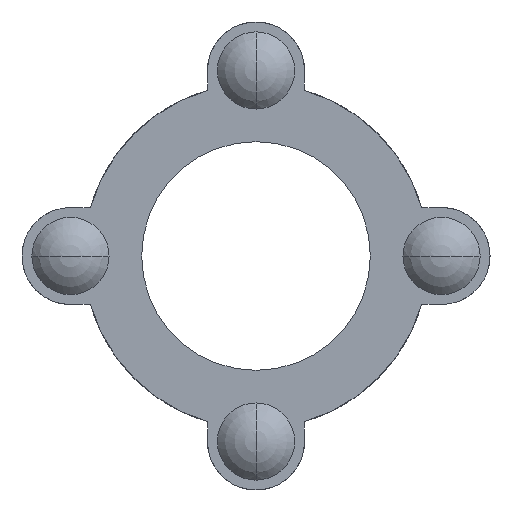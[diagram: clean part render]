
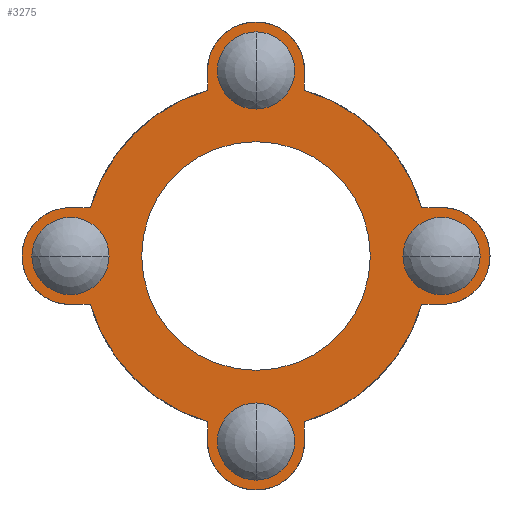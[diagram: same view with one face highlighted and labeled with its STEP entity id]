
A CAD part, left-side view. The second image highlights one B-rep face of the part: STEP entity #3275.
In plain terms, the highlighted planar face has unit normal (-1, 0, 0).
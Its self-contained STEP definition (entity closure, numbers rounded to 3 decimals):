
#2=CARTESIAN_POINT('',(-76.5,0.,-61.25));
#3=DIRECTION('',(1.,0.,0.));
#4=DIRECTION('',(0.,0.,-1.));
#5=AXIS2_PLACEMENT_3D('',#2,#3,#4);
#7=CARTESIAN_POINT('',(-76.5,0.,-61.25));
#8=DIRECTION('',(1.,0.,0.));
#9=DIRECTION('',(0.,0.,1.));
#10=AXIS2_PLACEMENT_3D('',#7,#8,#9);
#12=CARTESIAN_POINT('',(-76.5,0.,61.25));
#13=DIRECTION('',(1.,0.,0.));
#14=DIRECTION('',(0.,0.,1.));
#15=AXIS2_PLACEMENT_3D('',#12,#13,#14);
#17=CARTESIAN_POINT('',(-76.5,0.,61.25));
#18=DIRECTION('',(1.,0.,0.));
#19=DIRECTION('',(0.,0.,-1.));
#20=AXIS2_PLACEMENT_3D('',#17,#18,#19);
#22=CARTESIAN_POINT('',(-76.5,61.25,0.));
#23=DIRECTION('',(1.,0.,0.));
#24=DIRECTION('',(0.,1.,0.));
#25=AXIS2_PLACEMENT_3D('',#22,#23,#24);
#27=CARTESIAN_POINT('',(-76.5,61.25,0.));
#28=DIRECTION('',(1.,0.,0.));
#29=DIRECTION('',(0.,-1.,0.));
#30=AXIS2_PLACEMENT_3D('',#27,#28,#29);
#32=DIRECTION('',(0.,0.,1.));
#33=VECTOR('',#32,6.542);
#34=CARTESIAN_POINT('',(-76.5,-16.,-61.25));
#35=LINE('',#34,#33);
#36=CARTESIAN_POINT('',(-76.5,0.,-61.25));
#37=DIRECTION('',(-1.,0.,0.));
#38=DIRECTION('',(0.,1.,0.));
#39=AXIS2_PLACEMENT_3D('',#36,#37,#38);
#41=DIRECTION('',(0.,0.,-1.));
#42=VECTOR('',#41,6.542);
#43=CARTESIAN_POINT('',(-76.5,16.,-54.708));
#44=LINE('',#43,#42);
#45=DIRECTION('',(0.,-1.,0.));
#46=VECTOR('',#45,6.542);
#47=CARTESIAN_POINT('',(-76.5,61.25,-16.));
#48=LINE('',#47,#46);
#49=CARTESIAN_POINT('',(-76.5,61.25,0.));
#50=DIRECTION('',(-1.,0.,0.));
#51=DIRECTION('',(0.,0.,1.));
#52=AXIS2_PLACEMENT_3D('',#49,#50,#51);
#54=DIRECTION('',(0.,1.,0.));
#55=VECTOR('',#54,6.542);
#56=CARTESIAN_POINT('',(-76.5,54.708,16.));
#57=LINE('',#56,#55);
#58=DIRECTION('',(0.,0.,-1.));
#59=VECTOR('',#58,6.542);
#60=CARTESIAN_POINT('',(-76.5,16.,61.25));
#61=LINE('',#60,#59);
#62=CARTESIAN_POINT('',(-76.5,0.,61.25));
#63=DIRECTION('',(-1.,0.,0.));
#64=DIRECTION('',(0.,-1.,0.));
#65=AXIS2_PLACEMENT_3D('',#62,#63,#64);
#67=DIRECTION('',(0.,0.,1.));
#68=VECTOR('',#67,6.542);
#69=CARTESIAN_POINT('',(-76.5,-16.,54.708));
#70=LINE('',#69,#68);
#71=DIRECTION('',(0.,1.,0.));
#72=VECTOR('',#71,6.542);
#73=CARTESIAN_POINT('',(-76.5,-61.25,16.));
#74=LINE('',#73,#72);
#75=CARTESIAN_POINT('',(-76.5,-61.25,0.));
#76=DIRECTION('',(-1.,0.,0.));
#77=DIRECTION('',(0.,0.,-1.));
#78=AXIS2_PLACEMENT_3D('',#75,#76,#77);
#80=DIRECTION('',(0.,-1.,0.));
#81=VECTOR('',#80,6.542);
#82=CARTESIAN_POINT('',(-76.5,-54.708,-16.));
#83=LINE('',#82,#81);
#84=CARTESIAN_POINT('',(-76.5,-61.25,0.));
#85=DIRECTION('',(1.,0.,0.));
#86=DIRECTION('',(0.,-1.,0.));
#87=AXIS2_PLACEMENT_3D('',#84,#85,#86);
#89=CARTESIAN_POINT('',(-76.5,-61.25,0.));
#90=DIRECTION('',(1.,0.,0.));
#91=DIRECTION('',(0.,1.,0.));
#92=AXIS2_PLACEMENT_3D('',#89,#90,#91);
#209=CARTESIAN_POINT('',(-76.5,0.,0.));
#210=DIRECTION('',(-1.,0.,0.));
#211=DIRECTION('',(0.,-0.96,0.281));
#212=AXIS2_PLACEMENT_3D('',#209,#210,#211);
#218=CARTESIAN_POINT('',(-76.5,0.,0.));
#219=DIRECTION('',(-1.,0.,0.));
#220=DIRECTION('',(0.,-0.281,-0.96));
#221=AXIS2_PLACEMENT_3D('',#218,#219,#220);
#254=CARTESIAN_POINT('',(-76.5,0.,0.));
#255=DIRECTION('',(-1.,0.,0.));
#256=DIRECTION('',(0.,0.96,-0.281));
#257=AXIS2_PLACEMENT_3D('',#254,#255,#256);
#317=CARTESIAN_POINT('',(-76.5,0.,0.));
#318=DIRECTION('',(-1.,0.,0.));
#319=DIRECTION('',(0.,0.281,0.96));
#320=AXIS2_PLACEMENT_3D('',#317,#318,#319);
#2384=CARTESIAN_POINT('',(-76.5,0.,0.));
#2385=DIRECTION('',(-1.,0.,0.));
#2386=DIRECTION('',(0.,1.,0.));
#2387=AXIS2_PLACEMENT_3D('',#2384,#2385,#2386);
#2389=CARTESIAN_POINT('',(-76.5,0.,0.));
#2390=DIRECTION('',(1.,0.,0.));
#2391=DIRECTION('',(0.,1.,0.));
#2392=AXIS2_PLACEMENT_3D('',#2389,#2390,#2391);
#2584=CARTESIAN_POINT('',(-76.5,37.75,0.));
#2586=VERTEX_POINT('',#2584);
#2596=CARTESIAN_POINT('',(-76.5,-37.75,0.));
#2598=VERTEX_POINT('',#2596);
#2612=CARTESIAN_POINT('',(-76.5,61.25,16.));
#2613=CARTESIAN_POINT('',(-76.5,61.25,-16.));
#2614=VERTEX_POINT('',#2612);
#2615=VERTEX_POINT('',#2613);
#2616=CARTESIAN_POINT('',(-76.5,54.708,-16.));
#2617=VERTEX_POINT('',#2616);
#2618=CARTESIAN_POINT('',(-76.5,54.708,16.));
#2619=VERTEX_POINT('',#2618);
#2696=CARTESIAN_POINT('',(-76.5,74.,0.));
#2697=CARTESIAN_POINT('',(-76.5,48.5,0.));
#2698=VERTEX_POINT('',#2696);
#2699=VERTEX_POINT('',#2697);
#2776=CARTESIAN_POINT('',(-76.5,-16.,61.25));
#2777=CARTESIAN_POINT('',(-76.5,16.,61.25));
#2778=VERTEX_POINT('',#2776);
#2779=VERTEX_POINT('',#2777);
#2780=CARTESIAN_POINT('',(-76.5,16.,54.708));
#2781=VERTEX_POINT('',#2780);
#2782=CARTESIAN_POINT('',(-76.5,-16.,54.708));
#2783=VERTEX_POINT('',#2782);
#2816=CARTESIAN_POINT('',(-76.5,-61.25,-16.));
#2817=CARTESIAN_POINT('',(-76.5,-61.25,16.));
#2818=VERTEX_POINT('',#2816);
#2819=VERTEX_POINT('',#2817);
#2820=CARTESIAN_POINT('',(-76.5,-54.708,16.));
#2821=VERTEX_POINT('',#2820);
#2822=CARTESIAN_POINT('',(-76.5,-54.708,-16.));
#2823=VERTEX_POINT('',#2822);
#2856=CARTESIAN_POINT('',(-76.5,16.,-61.25));
#2857=CARTESIAN_POINT('',(-76.5,-16.,-61.25));
#2858=VERTEX_POINT('',#2856);
#2859=VERTEX_POINT('',#2857);
#2860=CARTESIAN_POINT('',(-76.5,-16.,-54.708));
#2861=VERTEX_POINT('',#2860);
#2862=CARTESIAN_POINT('',(-76.5,16.,-54.708));
#2863=VERTEX_POINT('',#2862);
#3093=CARTESIAN_POINT('',(-76.5,0.,74.));
#3094=VERTEX_POINT('',#3093);
#3095=CARTESIAN_POINT('',(-76.5,0.,48.5));
#3096=VERTEX_POINT('',#3095);
#3109=CARTESIAN_POINT('',(-76.5,-74.,0.));
#3110=VERTEX_POINT('',#3109);
#3111=CARTESIAN_POINT('',(-76.5,-48.5,0.));
#3112=VERTEX_POINT('',#3111);
#3125=CARTESIAN_POINT('',(-76.5,0.,-74.));
#3126=VERTEX_POINT('',#3125);
#3127=CARTESIAN_POINT('',(-76.5,0.,-48.5));
#3128=VERTEX_POINT('',#3127);
#3207=CARTESIAN_POINT('',(-76.5,0.,0.));
#3208=DIRECTION('',(1.,0.,0.));
#3209=DIRECTION('',(0.,-1.,0.));
#3210=AXIS2_PLACEMENT_3D('',#3207,#3208,#3209);
#3211=PLANE('',#3210);
#3213=ORIENTED_EDGE('',*,*,#3212,.F.);
#3215=ORIENTED_EDGE('',*,*,#3214,.F.);
#3217=ORIENTED_EDGE('',*,*,#3216,.F.);
#3219=ORIENTED_EDGE('',*,*,#3218,.F.);
#3221=ORIENTED_EDGE('',*,*,#3220,.F.);
#3223=ORIENTED_EDGE('',*,*,#3222,.F.);
#3225=ORIENTED_EDGE('',*,*,#3224,.F.);
#3227=ORIENTED_EDGE('',*,*,#3226,.F.);
#3229=ORIENTED_EDGE('',*,*,#3228,.F.);
#3231=ORIENTED_EDGE('',*,*,#3230,.F.);
#3233=ORIENTED_EDGE('',*,*,#3232,.F.);
#3235=ORIENTED_EDGE('',*,*,#3234,.F.);
#3237=ORIENTED_EDGE('',*,*,#3236,.F.);
#3239=ORIENTED_EDGE('',*,*,#3238,.F.);
#3241=ORIENTED_EDGE('',*,*,#3240,.F.);
#3243=ORIENTED_EDGE('',*,*,#3242,.F.);
#3244=EDGE_LOOP('',(#3213,#3215,#3217,#3219,#3221,#3223,#3225,#3227,#3229,#3231,
#3233,#3235,#3237,#3239,#3241,#3243));
#3245=FACE_OUTER_BOUND('',#3244,.F.);
#3247=ORIENTED_EDGE('',*,*,#3246,.F.);
#3249=ORIENTED_EDGE('',*,*,#3248,.F.);
#3250=EDGE_LOOP('',(#3247,#3249));
#3251=FACE_BOUND('',#3250,.F.);
#3253=ORIENTED_EDGE('',*,*,#3252,.F.);
#3255=ORIENTED_EDGE('',*,*,#3254,.F.);
#3256=EDGE_LOOP('',(#3253,#3255));
#3257=FACE_BOUND('',#3256,.F.);
#3259=ORIENTED_EDGE('',*,*,#3258,.F.);
#3261=ORIENTED_EDGE('',*,*,#3260,.F.);
#3262=EDGE_LOOP('',(#3259,#3261));
#3263=FACE_BOUND('',#3262,.F.);
#3265=ORIENTED_EDGE('',*,*,#3264,.F.);
#3267=ORIENTED_EDGE('',*,*,#3266,.T.);
#3268=EDGE_LOOP('',(#3265,#3267));
#3269=FACE_BOUND('',#3268,.F.);
#3270=ORIENTED_EDGE('',*,*,#3196,.F.);
#3272=ORIENTED_EDGE('',*,*,#3271,.F.);
#3273=EDGE_LOOP('',(#3270,#3272));
#3274=FACE_BOUND('',#3273,.F.);
#3275=ADVANCED_FACE('',(#3245,#3251,#3257,#3263,#3269,#3274),#3211,.F.);
#6=CIRCLE('',#5,12.75);
#11=CIRCLE('',#10,12.75);
#16=CIRCLE('',#15,12.75);
#21=CIRCLE('',#20,12.75);
#26=CIRCLE('',#25,12.75);
#31=CIRCLE('',#30,12.75);
#40=CIRCLE('',#39,16.);
#53=CIRCLE('',#52,16.);
#66=CIRCLE('',#65,16.);
#79=CIRCLE('',#78,16.);
#88=CIRCLE('',#87,12.75);
#93=CIRCLE('',#92,12.75);
#213=CIRCLE('',#212,57.);
#222=CIRCLE('',#221,57.);
#258=CIRCLE('',#257,57.);
#321=CIRCLE('',#320,57.);
#2388=CIRCLE('',#2387,37.75);
#2393=CIRCLE('',#2392,37.75);
#3196=EDGE_CURVE('',#3110,#3112,#88,.T.);
#3212=EDGE_CURVE('',#2861,#2823,#222,.T.);
#3214=EDGE_CURVE('',#2859,#2861,#35,.T.);
#3216=EDGE_CURVE('',#2858,#2859,#40,.T.);
#3218=EDGE_CURVE('',#2863,#2858,#44,.T.);
#3220=EDGE_CURVE('',#2617,#2863,#258,.T.);
#3222=EDGE_CURVE('',#2615,#2617,#48,.T.);
#3224=EDGE_CURVE('',#2614,#2615,#53,.T.);
#3226=EDGE_CURVE('',#2619,#2614,#57,.T.);
#3228=EDGE_CURVE('',#2781,#2619,#321,.T.);
#3230=EDGE_CURVE('',#2779,#2781,#61,.T.);
#3232=EDGE_CURVE('',#2778,#2779,#66,.T.);
#3234=EDGE_CURVE('',#2783,#2778,#70,.T.);
#3236=EDGE_CURVE('',#2821,#2783,#213,.T.);
#3238=EDGE_CURVE('',#2819,#2821,#74,.T.);
#3240=EDGE_CURVE('',#2818,#2819,#79,.T.);
#3242=EDGE_CURVE('',#2823,#2818,#83,.T.);
#3246=EDGE_CURVE('',#3094,#3096,#16,.T.);
#3248=EDGE_CURVE('',#3096,#3094,#21,.T.);
#3252=EDGE_CURVE('',#2698,#2699,#26,.T.);
#3254=EDGE_CURVE('',#2699,#2698,#31,.T.);
#3258=EDGE_CURVE('',#3126,#3128,#6,.T.);
#3260=EDGE_CURVE('',#3128,#3126,#11,.T.);
#3264=EDGE_CURVE('',#2586,#2598,#2393,.T.);
#3266=EDGE_CURVE('',#2586,#2598,#2388,.T.);
#3271=EDGE_CURVE('',#3112,#3110,#93,.T.);
